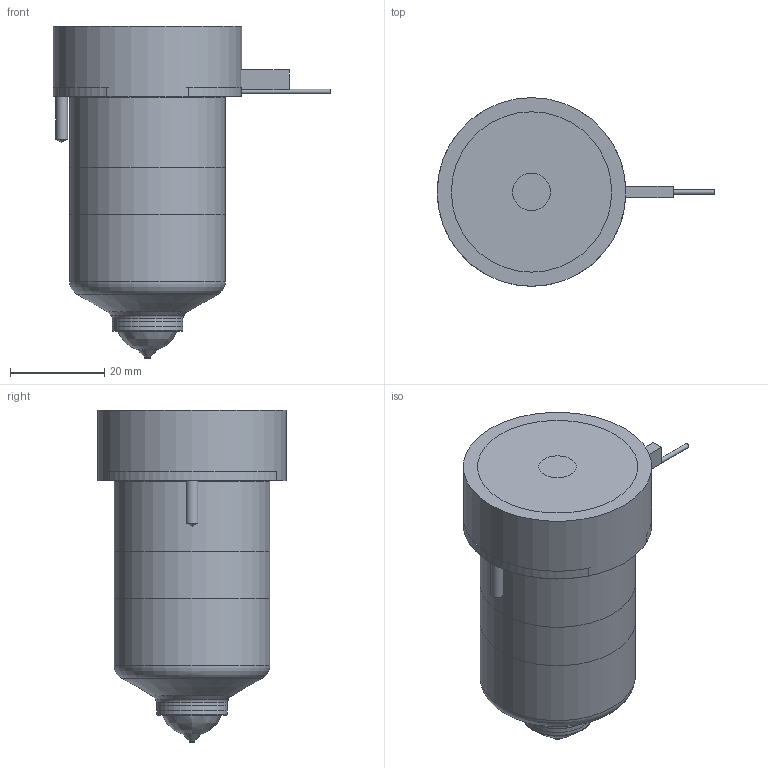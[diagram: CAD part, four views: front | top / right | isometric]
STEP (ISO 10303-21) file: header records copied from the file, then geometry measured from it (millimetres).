
FILE_DESCRIPTION(/* description */ (''),/* implementation_level */ '2;1');
FILE_NAME(/* name */ 'BXTT-BXIT19055_250C_b',/* time_stamp */ '2007-01-18T09:59:23+13:00',/* author */ (''),/* organization */ (''),/* preprocessor_version */ 'ST-DEVELOPER v9',/* originating_system */ 'UGS - NX 4.0',/* authorisation */ '');
FILE_SCHEMA (('CONFIG_CONTROL_DESIGN'));
Length unit declared in the file: millimetre
Products named in the file (1): BXTT-BXIT19055_250C_b
Bounding box: 58.85 x 40 x 70.38 mm (x, y, z)
Volume: 110755.8 mm3; surface area: 21431.6 mm2
Topology: 6 solids, 6 shells, 79 faces, 158 edges, 101 vertices
Faces by surface type: plane 35, cylinder 23, cone 11, torus 8, bspline 2
Full cylindrical faces by diameter (mm): 1 x3, 1.2 x1, 2.5 x2, 8 x1, 14.61 x1, 15.01 x2, 18.3 x1, 28.6 x1, 33 x2, 40 x1
Entity records: 1983 total; most frequent: CARTESIAN_POINT 418, DIRECTION 328, ORIENTED_EDGE 230, AXIS2_PLACEMENT_3D 145, EDGE_LOOP 122, EDGE_CURVE 115, VERTEX_POINT 92, ADVANCED_FACE 79
